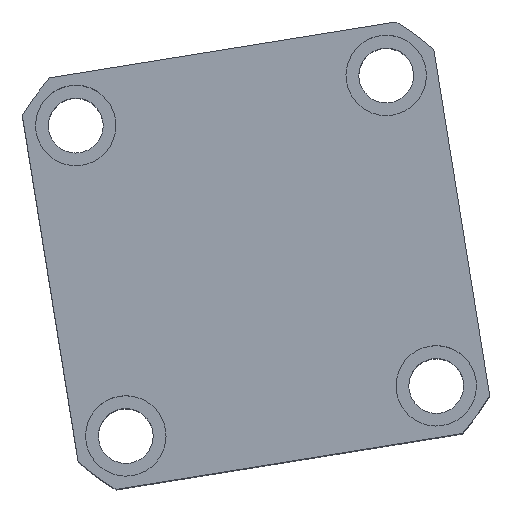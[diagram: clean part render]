
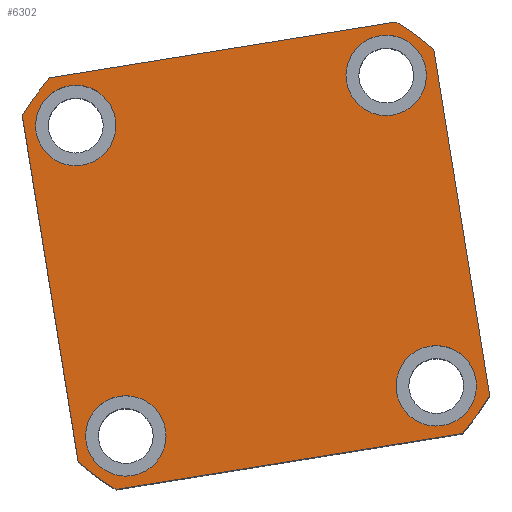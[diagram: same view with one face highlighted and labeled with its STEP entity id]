
A CAD part, top view. The second image highlights one B-rep face of the part: STEP entity #6302.
In plain terms, the highlighted planar face has unit normal (0, 0, 1) as drawn and (0, 0, -1) by its records, which use the part's own axes.
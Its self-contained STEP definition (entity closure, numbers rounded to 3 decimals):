
#22 = CARTESIAN_POINT ( 'NONE',  ( -54., 43., 0. ) ) ;
#160 = VERTEX_POINT ( 'NONE', #13349 ) ;
#182 = AXIS2_PLACEMENT_3D ( 'NONE', #6437, #14601, #7635 ) ;
#302 = DIRECTION ( 'NONE',  ( -1., 0., 0. ) ) ;
#313 = AXIS2_PLACEMENT_3D ( 'NONE', #11830, #11778, #11727 ) ;
#350 = ORIENTED_EDGE ( 'NONE', *, *, #5961, .F. ) ;
#695 = ORIENTED_EDGE ( 'NONE', *, *, #12878, .F. ) ;
#766 = CIRCLE ( 'NONE', #313, 74.5 ) ;
#770 = FACE_BOUND ( 'NONE', #4801, .T. ) ;
#1056 = DIRECTION ( 'NONE',  ( 0., 1., 0. ) ) ;
#1065 = CARTESIAN_POINT ( 'NONE',  ( -43., 43., 0. ) ) ;
#1081 = ORIENTED_EDGE ( 'NONE', *, *, #10988, .F. ) ;
#1428 = CARTESIAN_POINT ( 'NONE',  ( -57., 47.971, 0. ) ) ;
#1463 = AXIS2_PLACEMENT_3D ( 'NONE', #8971, #1899, #10111 ) ;
#1530 = CIRCLE ( 'NONE', #13196, 11. ) ;
#1590 = CARTESIAN_POINT ( 'NONE',  ( -57., 57., 0. ) ) ;
#1653 = VERTEX_POINT ( 'NONE', #1902 ) ;
#1883 = CARTESIAN_POINT ( 'NONE',  ( -54., -43., 0. ) ) ;
#1895 = CARTESIAN_POINT ( 'NONE',  ( -43., 43., 0. ) ) ;
#1899 = DIRECTION ( 'NONE',  ( 0., 0., -1. ) ) ;
#1902 = CARTESIAN_POINT ( 'NONE',  ( -32., 43., 0. ) ) ;
#2023 = CARTESIAN_POINT ( 'NONE',  ( 0., 0., 0. ) ) ;
#2205 = VERTEX_POINT ( 'NONE', #3015 ) ;
#2210 = VERTEX_POINT ( 'NONE', #2973 ) ;
#2252 = CARTESIAN_POINT ( 'NONE',  ( 57., 57., 0. ) ) ;
#2611 = CARTESIAN_POINT ( 'NONE',  ( -43., -43., 0. ) ) ;
#2743 = ORIENTED_EDGE ( 'NONE', *, *, #4197, .F. ) ;
#2790 = CIRCLE ( 'NONE', #5850, 74.5 ) ;
#2807 = VECTOR ( 'NONE', #10882, 1000. ) ;
#2824 = VECTOR ( 'NONE', #1056, 1000. ) ;
#2848 = VERTEX_POINT ( 'NONE', #3702 ) ;
#2917 = VERTEX_POINT ( 'NONE', #1428 ) ;
#2973 = CARTESIAN_POINT ( 'NONE',  ( 57., -47.971, 0. ) ) ;
#3015 = CARTESIAN_POINT ( 'NONE',  ( 47.971, 57., 0. ) ) ;
#3085 = DIRECTION ( 'NONE',  ( -1., 0., 0. ) ) ;
#3125 = EDGE_CURVE ( 'NONE', #5617, #7047, #11740, .T. ) ;
#3143 = CARTESIAN_POINT ( 'NONE',  ( 54., 43., 0. ) ) ;
#3486 = CARTESIAN_POINT ( 'NONE',  ( 57., 47.971, 0. ) ) ;
#3579 = FACE_BOUND ( 'NONE', #8683, .T. ) ;
#3702 = CARTESIAN_POINT ( 'NONE',  ( -47.971, 57., 0. ) ) ;
#3798 = DIRECTION ( 'NONE',  ( -1., 0., 0. ) ) ;
#3898 = VERTEX_POINT ( 'NONE', #4625 ) ;
#3931 = FACE_BOUND ( 'NONE', #12382, .T. ) ;
#3932 = VERTEX_POINT ( 'NONE', #3486 ) ;
#3997 = AXIS2_PLACEMENT_3D ( 'NONE', #2023, #12594, #5599 ) ;
#4001 = EDGE_CURVE ( 'NONE', #1653, #8329, #1530, .T. ) ;
#4039 = EDGE_LOOP ( 'NONE', ( #13563, #14329 ) ) ;
#4064 = VECTOR ( 'NONE', #11467, 1000. ) ;
#4197 = EDGE_CURVE ( 'NONE', #3932, #2205, #766, .T. ) ;
#4263 = VECTOR ( 'NONE', #6355, 1000. ) ;
#4291 = AXIS2_PLACEMENT_3D ( 'NONE', #14368, #7401, #302 ) ;
#4321 = CARTESIAN_POINT ( 'NONE',  ( -32., -43., 0. ) ) ;
#4398 = PLANE ( 'NONE',  #3997 ) ;
#4467 = CARTESIAN_POINT ( 'NONE',  ( -57., 57., 0. ) ) ;
#4603 = VERTEX_POINT ( 'NONE', #13975 ) ;
#4622 = EDGE_CURVE ( 'NONE', #2848, #2917, #8731, .T. ) ;
#4625 = CARTESIAN_POINT ( 'NONE',  ( -47.971, -57., 0. ) ) ;
#4752 = AXIS2_PLACEMENT_3D ( 'NONE', #5079, #13240, #6260 ) ;
#4801 = EDGE_LOOP ( 'NONE', ( #350, #695 ) ) ;
#5079 = CARTESIAN_POINT ( 'NONE',  ( 43., -43., 0. ) ) ;
#5266 = CARTESIAN_POINT ( 'NONE',  ( 0., 0., 0. ) ) ;
#5308 = EDGE_CURVE ( 'NONE', #2205, #2848, #7460, .T. ) ;
#5598 = CIRCLE ( 'NONE', #12438, 11. ) ;
#5599 = DIRECTION ( 'NONE',  ( 1., 0., 0. ) ) ;
#5617 = VERTEX_POINT ( 'NONE', #12719 ) ;
#5733 = ORIENTED_EDGE ( 'NONE', *, *, #4622, .F. ) ;
#5850 = AXIS2_PLACEMENT_3D ( 'NONE', #5266, #13431, #6455 ) ;
#5925 = ORIENTED_EDGE ( 'NONE', *, *, #12347, .F. ) ;
#5961 = EDGE_CURVE ( 'NONE', #160, #8779, #8209, .T. ) ;
#6144 = CIRCLE ( 'NONE', #4752, 11. ) ;
#6260 = DIRECTION ( 'NONE',  ( -1., 0., 0. ) ) ;
#6280 = DIRECTION ( 'NONE',  ( 0., 0., -1. ) ) ;
#6302 = ADVANCED_FACE ( 'NONE', ( #3579, #3931, #770, #12530, #9468 ), #4398, .F. ) ;
#6355 = DIRECTION ( 'NONE',  ( -1., 0., 0. ) ) ;
#6437 = CARTESIAN_POINT ( 'NONE',  ( 0., 0., 0. ) ) ;
#6455 = DIRECTION ( 'NONE',  ( 1., 0., 0. ) ) ;
#6469 = ORIENTED_EDGE ( 'NONE', *, *, #5308, .F. ) ;
#6492 = EDGE_CURVE ( 'NONE', #2210, #3932, #14925, .T. ) ;
#6726 = CIRCLE ( 'NONE', #1463, 11. ) ;
#6822 = EDGE_CURVE ( 'NONE', #14699, #15235, #13444, .T. ) ;
#6870 = LINE ( 'NONE', #4467, #4064 ) ;
#7047 = VERTEX_POINT ( 'NONE', #9878 ) ;
#7401 = DIRECTION ( 'NONE',  ( 0., 0., -1. ) ) ;
#7460 = LINE ( 'NONE', #1590, #4263 ) ;
#7635 = DIRECTION ( 'NONE',  ( 1., 0., 0. ) ) ;
#7736 = ORIENTED_EDGE ( 'NONE', *, *, #11697, .F. ) ;
#7749 = ORIENTED_EDGE ( 'NONE', *, *, #14155, .F. ) ;
#8209 = CIRCLE ( 'NONE', #4291, 11. ) ;
#8329 = VERTEX_POINT ( 'NONE', #22 ) ;
#8683 = EDGE_LOOP ( 'NONE', ( #8852, #7736 ) ) ;
#8731 = CIRCLE ( 'NONE', #10562, 74.5 ) ;
#8779 = VERTEX_POINT ( 'NONE', #3143 ) ;
#8781 = AXIS2_PLACEMENT_3D ( 'NONE', #13262, #6280, #14445 ) ;
#8852 = ORIENTED_EDGE ( 'NONE', *, *, #6822, .F. ) ;
#8913 = CIRCLE ( 'NONE', #182, 74.5 ) ;
#8971 = CARTESIAN_POINT ( 'NONE',  ( -43., -43., 0. ) ) ;
#9015 = ORIENTED_EDGE ( 'NONE', *, *, #3125, .F. ) ;
#9468 = FACE_OUTER_BOUND ( 'NONE', #12091, .T. ) ;
#9717 = CARTESIAN_POINT ( 'NONE',  ( -57., -57., 0. ) ) ;
#9878 = CARTESIAN_POINT ( 'NONE',  ( 32., -43., 0. ) ) ;
#9904 = ORIENTED_EDGE ( 'NONE', *, *, #14360, .F. ) ;
#10108 = DIRECTION ( 'NONE',  ( 0., 0., -1. ) ) ;
#10111 = DIRECTION ( 'NONE',  ( -1., 0., 0. ) ) ;
#10323 = CIRCLE ( 'NONE', #8781, 11. ) ;
#10562 = AXIS2_PLACEMENT_3D ( 'NONE', #13057, #13007, #12960 ) ;
#10807 = DIRECTION ( 'NONE',  ( 0., 0., -1. ) ) ;
#10882 = DIRECTION ( 'NONE',  ( 1., 0., 0. ) ) ;
#10988 = EDGE_CURVE ( 'NONE', #4603, #2210, #8913, .T. ) ;
#11467 = DIRECTION ( 'NONE',  ( 0., -1., 0. ) ) ;
#11697 = EDGE_CURVE ( 'NONE', #15235, #14699, #6726, .T. ) ;
#11727 = DIRECTION ( 'NONE',  ( 1., 0., 0. ) ) ;
#11740 = CIRCLE ( 'NONE', #12193, 11. ) ;
#11778 = DIRECTION ( 'NONE',  ( 0., 0., 1. ) ) ;
#11830 = CARTESIAN_POINT ( 'NONE',  ( 0., 0., 0. ) ) ;
#11886 = EDGE_CURVE ( 'NONE', #8329, #1653, #5598, .T. ) ;
#12091 = EDGE_LOOP ( 'NONE', ( #2743, #12433, #1081, #5925, #12851, #7749, #5733, #6469 ) ) ;
#12193 = AXIS2_PLACEMENT_3D ( 'NONE', #15155, #15099, #14987 ) ;
#12334 = LINE ( 'NONE', #9717, #2807 ) ;
#12347 = EDGE_CURVE ( 'NONE', #3898, #4603, #12334, .T. ) ;
#12361 = CARTESIAN_POINT ( 'NONE',  ( -57., -47.971, 0. ) ) ;
#12382 = EDGE_LOOP ( 'NONE', ( #9904, #9015 ) ) ;
#12433 = ORIENTED_EDGE ( 'NONE', *, *, #6492, .F. ) ;
#12438 = AXIS2_PLACEMENT_3D ( 'NONE', #1895, #10108, #3085 ) ;
#12530 = FACE_BOUND ( 'NONE', #4039, .T. ) ;
#12594 = DIRECTION ( 'NONE',  ( 0., 0., 1. ) ) ;
#12719 = CARTESIAN_POINT ( 'NONE',  ( 54., -43., 0. ) ) ;
#12851 = ORIENTED_EDGE ( 'NONE', *, *, #13813, .F. ) ;
#12878 = EDGE_CURVE ( 'NONE', #8779, #160, #10323, .T. ) ;
#12960 = DIRECTION ( 'NONE',  ( 1., 0., 0. ) ) ;
#13007 = DIRECTION ( 'NONE',  ( 0., 0., 1. ) ) ;
#13057 = CARTESIAN_POINT ( 'NONE',  ( 0., 0., 0. ) ) ;
#13085 = VERTEX_POINT ( 'NONE', #12361 ) ;
#13196 = AXIS2_PLACEMENT_3D ( 'NONE', #1065, #15222, #14433 ) ;
#13240 = DIRECTION ( 'NONE',  ( 0., 0., -1. ) ) ;
#13262 = CARTESIAN_POINT ( 'NONE',  ( 43., 43., 0. ) ) ;
#13349 = CARTESIAN_POINT ( 'NONE',  ( 32., 43., 0. ) ) ;
#13431 = DIRECTION ( 'NONE',  ( 0., 0., 1. ) ) ;
#13444 = CIRCLE ( 'NONE', #14242, 11. ) ;
#13563 = ORIENTED_EDGE ( 'NONE', *, *, #11886, .F. ) ;
#13813 = EDGE_CURVE ( 'NONE', #13085, #3898, #2790, .T. ) ;
#13975 = CARTESIAN_POINT ( 'NONE',  ( 47.971, -57., 0. ) ) ;
#14155 = EDGE_CURVE ( 'NONE', #2917, #13085, #6870, .T. ) ;
#14242 = AXIS2_PLACEMENT_3D ( 'NONE', #2611, #10807, #3798 ) ;
#14329 = ORIENTED_EDGE ( 'NONE', *, *, #4001, .F. ) ;
#14360 = EDGE_CURVE ( 'NONE', #7047, #5617, #6144, .T. ) ;
#14368 = CARTESIAN_POINT ( 'NONE',  ( 43., 43., 0. ) ) ;
#14433 = DIRECTION ( 'NONE',  ( -1., 0., 0. ) ) ;
#14445 = DIRECTION ( 'NONE',  ( -1., 0., 0. ) ) ;
#14601 = DIRECTION ( 'NONE',  ( 0., 0., 1. ) ) ;
#14699 = VERTEX_POINT ( 'NONE', #1883 ) ;
#14925 = LINE ( 'NONE', #2252, #2824 ) ;
#14987 = DIRECTION ( 'NONE',  ( -1., 0., 0. ) ) ;
#15099 = DIRECTION ( 'NONE',  ( 0., 0., -1. ) ) ;
#15155 = CARTESIAN_POINT ( 'NONE',  ( 43., -43., 0. ) ) ;
#15222 = DIRECTION ( 'NONE',  ( 0., 0., -1. ) ) ;
#15235 = VERTEX_POINT ( 'NONE', #4321 ) ;
